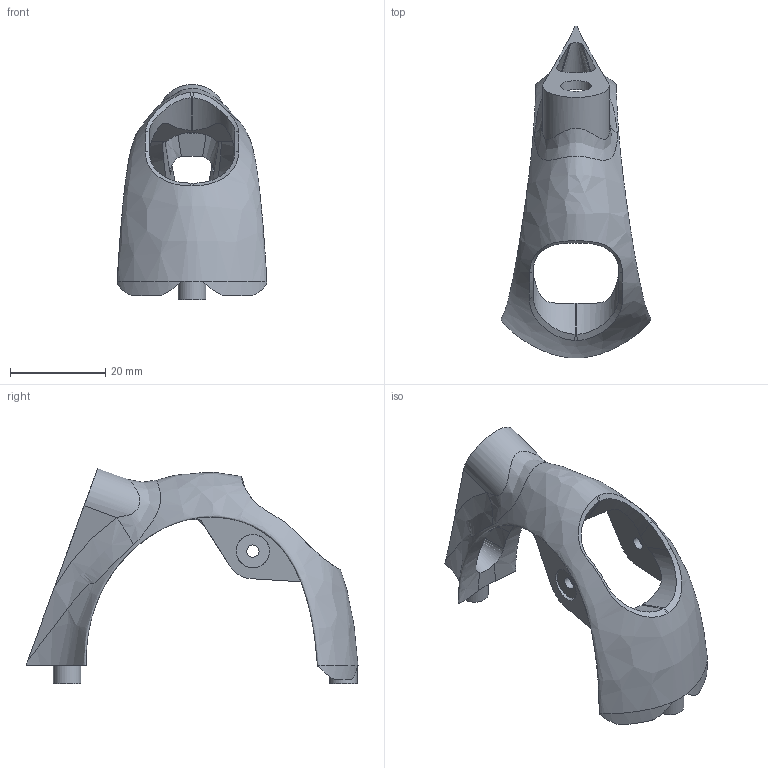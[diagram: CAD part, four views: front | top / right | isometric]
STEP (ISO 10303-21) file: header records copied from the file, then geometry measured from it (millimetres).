
FILE_DESCRIPTION(('FreeCAD Model'),'2;1');
FILE_NAME('Open CASCADE Shape Model','2023-03-16T15:39:26',(''),(''), 'Open CASCADE STEP processor 7.6','FreeCAD','Unknown');
FILE_SCHEMA(('AUTOMOTIVE_DESIGN { 1 0 10303 214 1 1 1 1 }'));
Length unit declared in the file: millimetre
Products named in the file (1): Fillet014
Bounding box: 31.47 x 69.73 x 45.17 mm (x, y, z)
Volume: 8142.9 mm3; surface area: 7214.6 mm2
Topology: 1 solids, 1 shells, 84 faces, 220 edges, 140 vertices
Faces by surface type: plane 32, bspline 28, cylinder 22, extrusion 2
Full cylindrical faces by diameter (mm): 2.6 x4, 5.8 x2, 6.6 x1, 7 x2
Entity records: 15191 total; most frequent: CARTESIAN_POINT 13377, ORIENTED_EDGE 436, DIRECTION 267, EDGE_CURVE 218, VERTEX_POINT 140, AXIS2_PLACEMENT_3D 99, FACE_BOUND 98, EDGE_LOOP 98
